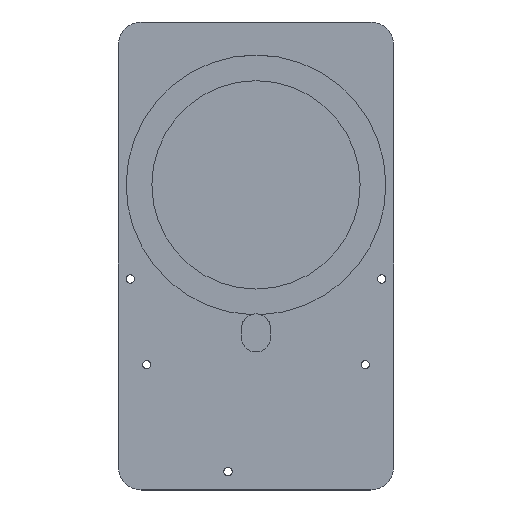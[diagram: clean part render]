
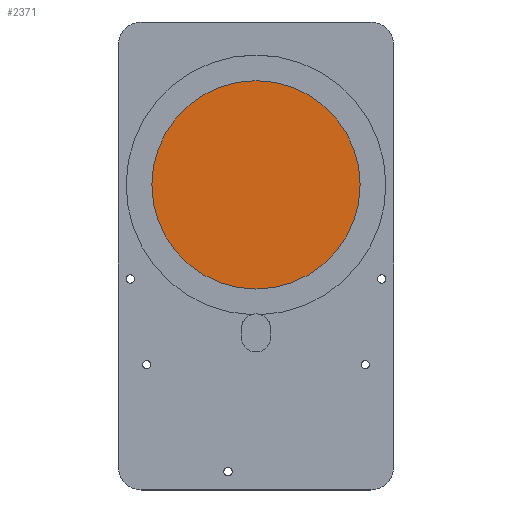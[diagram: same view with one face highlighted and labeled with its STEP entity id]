
A CAD part, top view. The second image highlights one B-rep face of the part: STEP entity #2371.
In plain terms, the highlighted planar face has unit normal (0, 0, 1).
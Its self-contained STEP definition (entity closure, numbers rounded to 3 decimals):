
#2305 = CYLINDRICAL_SURFACE('',#2306,22.7);
#2306 = AXIS2_PLACEMENT_3D('',#2307,#2308,#2309);
#2307 = CARTESIAN_POINT('',(0.,15.5,0.69));
#2308 = DIRECTION('',(0.,0.,1.));
#2309 = DIRECTION('',(1.,0.,-0.));
#2320 = EDGE_CURVE('',#2321,#2321,#2323,.T.);
#2321 = VERTEX_POINT('',#2322);
#2322 = CARTESIAN_POINT('',(22.7,15.5,1.));
#2323 = SURFACE_CURVE('',#2324,(#2329,#2336),.PCURVE_S1.);
#2324 = CIRCLE('',#2325,22.7);
#2325 = AXIS2_PLACEMENT_3D('',#2326,#2327,#2328);
#2326 = CARTESIAN_POINT('',(0.,15.5,1.));
#2327 = DIRECTION('',(0.,0.,1.));
#2328 = DIRECTION('',(1.,0.,-0.));
#2329 = PCURVE('',#2305,#2330);
#2330 = DEFINITIONAL_REPRESENTATION('',(#2331),#2335);
#2331 = LINE('',#2332,#2333);
#2332 = CARTESIAN_POINT('',(0.,0.31));
#2333 = VECTOR('',#2334,1.);
#2334 = DIRECTION('',(1.,0.));
#2335 = ( GEOMETRIC_REPRESENTATION_CONTEXT(2) 
PARAMETRIC_REPRESENTATION_CONTEXT() REPRESENTATION_CONTEXT('2D SPACE',''
  ) );
#2336 = PCURVE('',#2337,#2342);
#2337 = PLANE('',#2338);
#2338 = AXIS2_PLACEMENT_3D('',#2339,#2340,#2341);
#2339 = CARTESIAN_POINT('',(0.,0.,1.)
  );
#2340 = DIRECTION('',(0.,0.,1.));
#2341 = DIRECTION('',(1.,0.,-0.));
#2342 = DEFINITIONAL_REPRESENTATION('',(#2343),#2347);
#2343 = CIRCLE('',#2344,22.7);
#2344 = AXIS2_PLACEMENT_2D('',#2345,#2346);
#2345 = CARTESIAN_POINT('',(0.,15.5));
#2346 = DIRECTION('',(1.,0.));
#2347 = ( GEOMETRIC_REPRESENTATION_CONTEXT(2) 
PARAMETRIC_REPRESENTATION_CONTEXT() REPRESENTATION_CONTEXT('2D SPACE',''
  ) );
#2371 = ADVANCED_FACE('',(#2372),#2337,.T.);
#2372 = FACE_BOUND('',#2373,.T.);
#2373 = EDGE_LOOP('',(#2374));
#2374 = ORIENTED_EDGE('',*,*,#2320,.T.);
